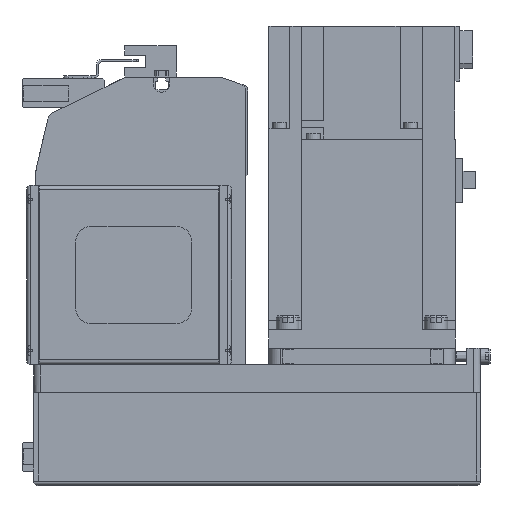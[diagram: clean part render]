
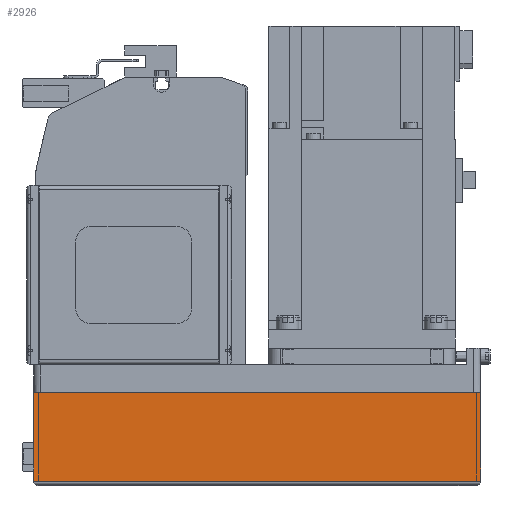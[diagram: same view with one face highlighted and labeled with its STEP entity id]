
A CAD part, left-side view. The second image highlights one B-rep face of the part: STEP entity #2926.
In plain terms, the highlighted planar face has unit normal (-1, 0, 0) as drawn and (0, 1, 0) by its records, which use the part's own axes.
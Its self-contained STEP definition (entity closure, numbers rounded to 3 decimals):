
#2926 = ADVANCED_FACE( '', ( #6276 ), #6277, .T. );
#6276 = FACE_OUTER_BOUND( '', #9894, .T. );
#6277 = PLANE( '', #9895 );
#9894 = EDGE_LOOP( '', ( #18174, #18175, #18176, #18177 ) );
#9895 = AXIS2_PLACEMENT_3D( '', #18178, #18179, #18180 );
#18174 = ORIENTED_EDGE( '', *, *, #23168, .F. );
#18175 = ORIENTED_EDGE( '', *, *, #23654, .F. );
#18176 = ORIENTED_EDGE( '', *, *, #23080, .T. );
#18177 = ORIENTED_EDGE( '', *, *, #23404, .T. );
#18178 = CARTESIAN_POINT( '', ( -192., 40., -50. ) );
#18179 = DIRECTION( '', ( 0., 1., 0. ) );
#18180 = DIRECTION( '', ( 0., 0., 1. ) );
#23080 = EDGE_CURVE( '', #25236, #28333, #28444, .T. );
#23168 = EDGE_CURVE( '', #28559, #28561, #28562, .T. );
#23404 = EDGE_CURVE( '', #28333, #28561, #28862, .T. );
#23654 = EDGE_CURVE( '', #25236, #28559, #29167, .T. );
#25236 = VERTEX_POINT( '', #31362 );
#28333 = VERTEX_POINT( '', #36390 );
#28444 = LINE( '', #36537, #36538 );
#28559 = VERTEX_POINT( '', #36692 );
#28561 = VERTEX_POINT( '', #36695 );
#28562 = LINE( '', #36696, #36697 );
#28862 = LINE( '', #37180, #37181 );
#29167 = LINE( '', #37614, #37615 );
#31362 = CARTESIAN_POINT( '', ( -192., 40., -50. ) );
#36390 = CARTESIAN_POINT( '', ( -192., 40., -12.1 ) );
#36537 = CARTESIAN_POINT( '', ( -192., 40., -50. ) );
#36538 = VECTOR( '', #41562, 1000. );
#36692 = CARTESIAN_POINT( '', ( 0., 40., -50. ) );
#36695 = CARTESIAN_POINT( '', ( 0., 40., -12.1 ) );
#36696 = CARTESIAN_POINT( '', ( 0., 40., -50. ) );
#36697 = VECTOR( '', #41663, 1000. );
#37180 = CARTESIAN_POINT( '', ( -192., 40., -12.1 ) );
#37181 = VECTOR( '', #41937, 1000. );
#37614 = CARTESIAN_POINT( '', ( -192., 40., -50. ) );
#37615 = VECTOR( '', #42153, 1000. );
#41562 = DIRECTION( '', ( 0., 0., 1. ) );
#41663 = DIRECTION( '', ( 0., 0., 1. ) );
#41937 = DIRECTION( '', ( 1., 0., 0. ) );
#42153 = DIRECTION( '', ( 1., 0., 0. ) );
